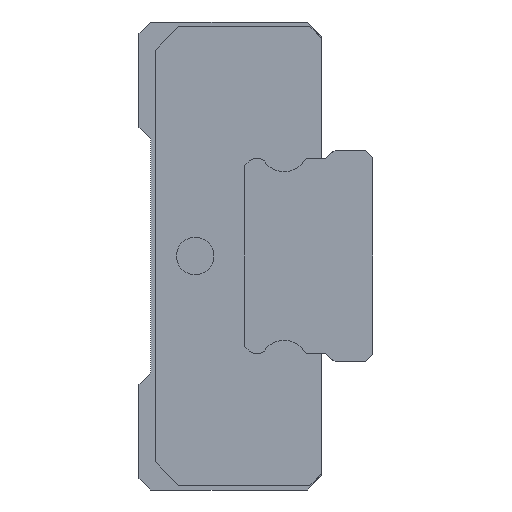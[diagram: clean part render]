
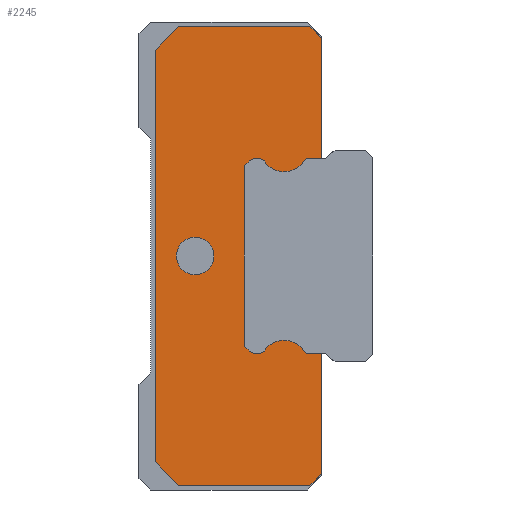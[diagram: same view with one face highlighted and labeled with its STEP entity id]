
A CAD part, left-side view. The second image highlights one B-rep face of the part: STEP entity #2245.
In plain terms, the highlighted planar face has unit normal (-1, 0, 0).
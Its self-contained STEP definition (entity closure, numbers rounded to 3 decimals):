
#81=PLANE('',#2459);
#180=LINE('',#3434,#408);
#187=LINE('',#3448,#415);
#190=LINE('',#3453,#418);
#238=LINE('',#3550,#466);
#251=LINE('',#3577,#479);
#253=LINE('',#3580,#481);
#257=LINE('',#3586,#485);
#265=LINE('',#3600,#493);
#275=LINE('',#3617,#503);
#283=LINE('',#3657,#511);
#284=LINE('',#3667,#512);
#285=LINE('',#3671,#513);
#286=LINE('',#3673,#514);
#287=LINE('',#3675,#515);
#288=LINE('',#3679,#516);
#289=LINE('',#3689,#517);
#408=VECTOR('',#2802,1000.);
#415=VECTOR('',#2813,1000.);
#418=VECTOR('',#2818,1000.);
#466=VECTOR('',#2884,1000.);
#479=VECTOR('',#2899,1000.);
#481=VECTOR('',#2903,1000.);
#485=VECTOR('',#2911,1000.);
#493=VECTOR('',#2927,1000.);
#503=VECTOR('',#2939,1000.);
#511=VECTOR('',#2975,1000.);
#512=VECTOR('',#2984,1000.);
#513=VECTOR('',#2987,1000.);
#514=VECTOR('',#2988,1000.);
#515=VECTOR('',#2989,1000.);
#516=VECTOR('',#2992,1000.);
#517=VECTOR('',#3001,1000.);
#947=ORIENTED_EDGE('',*,*,#1422,.T.);
#948=ORIENTED_EDGE('',*,*,#1423,.F.);
#949=ORIENTED_EDGE('',*,*,#1424,.T.);
#950=ORIENTED_EDGE('',*,*,#1425,.F.);
#951=ORIENTED_EDGE('',*,*,#1426,.F.);
#952=ORIENTED_EDGE('',*,*,#1427,.T.);
#953=ORIENTED_EDGE('',*,*,#1428,.T.);
#954=ORIENTED_EDGE('',*,*,#1429,.T.);
#955=ORIENTED_EDGE('',*,*,#1430,.T.);
#956=ORIENTED_EDGE('',*,*,#1431,.T.);
#957=ORIENTED_EDGE('',*,*,#1432,.T.);
#958=ORIENTED_EDGE('',*,*,#1433,.T.);
#959=ORIENTED_EDGE('',*,*,#1434,.T.);
#960=ORIENTED_EDGE('',*,*,#1435,.T.);
#961=ORIENTED_EDGE('',*,*,#1436,.F.);
#962=ORIENTED_EDGE('',*,*,#1437,.F.);
#963=ORIENTED_EDGE('',*,*,#1438,.T.);
#964=ORIENTED_EDGE('',*,*,#1439,.T.);
#965=ORIENTED_EDGE('',*,*,#1403,.F.);
#966=ORIENTED_EDGE('',*,*,#1318,.F.);
#967=ORIENTED_EDGE('',*,*,#1315,.F.);
#968=ORIENTED_EDGE('',*,*,#1308,.F.);
#969=ORIENTED_EDGE('',*,*,#1385,.F.);
#970=ORIENTED_EDGE('',*,*,#1366,.F.);
#971=ORIENTED_EDGE('',*,*,#1381,.F.);
#972=ORIENTED_EDGE('',*,*,#1379,.F.);
#973=ORIENTED_EDGE('',*,*,#1393,.F.);
#1308=EDGE_CURVE('',#1590,#1591,#180,.T.);
#1315=EDGE_CURVE('',#1591,#1594,#187,.T.);
#1318=EDGE_CURVE('',#1594,#1597,#190,.T.);
#1366=EDGE_CURVE('',#1636,#1637,#238,.T.);
#1379=EDGE_CURVE('',#1649,#1643,#251,.T.);
#1381=EDGE_CURVE('',#1643,#1636,#253,.T.);
#1385=EDGE_CURVE('',#1637,#1590,#257,.T.);
#1393=EDGE_CURVE('',#1650,#1649,#265,.T.);
#1403=EDGE_CURVE('',#1597,#1655,#275,.T.);
#1422=EDGE_CURVE('',#1675,#1675,#1785,.T.);
#1423=EDGE_CURVE('',#1676,#1650,#283,.T.);
#1424=EDGE_CURVE('',#1676,#1677,#1786,.T.);
#1425=EDGE_CURVE('',#1678,#1677,#1787,.T.);
#1426=EDGE_CURVE('',#1679,#1678,#1788,.T.);
#1427=EDGE_CURVE('',#1679,#1680,#1789,.T.);
#1428=EDGE_CURVE('',#1680,#1681,#284,.T.);
#1429=EDGE_CURVE('',#1681,#1682,#1790,.T.);
#1430=EDGE_CURVE('',#1682,#1683,#285,.T.);
#1431=EDGE_CURVE('',#1683,#1684,#286,.T.);
#1432=EDGE_CURVE('',#1684,#1685,#287,.T.);
#1433=EDGE_CURVE('',#1685,#1686,#1791,.T.);
#1434=EDGE_CURVE('',#1686,#1687,#288,.T.);
#1435=EDGE_CURVE('',#1687,#1688,#1792,.T.);
#1436=EDGE_CURVE('',#1689,#1688,#1793,.T.);
#1437=EDGE_CURVE('',#1690,#1689,#1794,.T.);
#1438=EDGE_CURVE('',#1690,#1691,#1795,.T.);
#1439=EDGE_CURVE('',#1691,#1655,#289,.T.);
#1590=VERTEX_POINT('',#3433);
#1591=VERTEX_POINT('',#3435);
#1594=VERTEX_POINT('',#3445);
#1597=VERTEX_POINT('',#3454);
#1636=VERTEX_POINT('',#3549);
#1637=VERTEX_POINT('',#3551);
#1643=VERTEX_POINT('',#3565);
#1649=VERTEX_POINT('',#3576);
#1650=VERTEX_POINT('',#3598);
#1655=VERTEX_POINT('',#3610);
#1675=VERTEX_POINT('',#3656);
#1676=VERTEX_POINT('',#3658);
#1677=VERTEX_POINT('',#3660);
#1678=VERTEX_POINT('',#3662);
#1679=VERTEX_POINT('',#3664);
#1680=VERTEX_POINT('',#3666);
#1681=VERTEX_POINT('',#3668);
#1682=VERTEX_POINT('',#3670);
#1683=VERTEX_POINT('',#3672);
#1684=VERTEX_POINT('',#3674);
#1685=VERTEX_POINT('',#3676);
#1686=VERTEX_POINT('',#3678);
#1687=VERTEX_POINT('',#3680);
#1688=VERTEX_POINT('',#3682);
#1689=VERTEX_POINT('',#3684);
#1690=VERTEX_POINT('',#3686);
#1691=VERTEX_POINT('',#3688);
#1785=CIRCLE('',#2460,0.8);
#1786=CIRCLE('',#2461,0.2);
#1787=CIRCLE('',#2462,1.);
#1788=CIRCLE('',#2463,1.1);
#1789=CIRCLE('',#2464,0.2);
#1790=CIRCLE('',#2465,0.3);
#1791=CIRCLE('',#2466,0.3);
#1792=CIRCLE('',#2467,0.2);
#1793=CIRCLE('',#2468,1.1);
#1794=CIRCLE('',#2469,1.);
#1795=CIRCLE('',#2470,0.2);
#1906=EDGE_LOOP('',(#947));
#1907=EDGE_LOOP('',(#948,#949,#950,#951,#952,#953,#954,#955,#956,#957,#958,
#959,#960,#961,#962,#963,#964,#965,#966,#967,#968,#969,#970,#971,#972,#973));
#2070=FACE_BOUND('',#1906,.T.);
#2071=FACE_BOUND('',#1907,.T.);
#2245=ADVANCED_FACE('',(#2070,#2071),#81,.F.);
#2459=AXIS2_PLACEMENT_3D('',#3654,#2971,#2972);
#2460=AXIS2_PLACEMENT_3D('',#3655,#2973,#2974);
#2461=AXIS2_PLACEMENT_3D('',#3659,#2976,#2977);
#2462=AXIS2_PLACEMENT_3D('',#3661,#2978,#2979);
#2463=AXIS2_PLACEMENT_3D('',#3663,#2980,#2981);
#2464=AXIS2_PLACEMENT_3D('',#3665,#2982,#2983);
#2465=AXIS2_PLACEMENT_3D('',#3669,#2985,#2986);
#2466=AXIS2_PLACEMENT_3D('',#3677,#2990,#2991);
#2467=AXIS2_PLACEMENT_3D('',#3681,#2993,#2994);
#2468=AXIS2_PLACEMENT_3D('',#3683,#2995,#2996);
#2469=AXIS2_PLACEMENT_3D('',#3685,#2997,#2998);
#2470=AXIS2_PLACEMENT_3D('',#3687,#2999,#3000);
#2802=DIRECTION('',(0.,-0.707,0.707));
#2813=DIRECTION('',(0.,-1.,0.));
#2818=DIRECTION('',(0.,-0.707,-0.707));
#2884=DIRECTION('',(0.,0.707,0.707));
#2899=DIRECTION('',(0.,0.707,-0.707));
#2903=DIRECTION('',(0.,1.,0.));
#2911=DIRECTION('',(0.,0.,1.));
#2927=DIRECTION('',(0.,0.,-1.));
#2939=DIRECTION('',(0.,0.,-1.));
#2971=DIRECTION('',(1.,0.,0.));
#2972=DIRECTION('',(0.,0.,-1.));
#2973=DIRECTION('',(1.,0.,0.));
#2974=DIRECTION('',(0.,0.,-1.));
#2975=DIRECTION('',(0.,-1.,0.));
#2976=DIRECTION('',(1.,0.,0.));
#2977=DIRECTION('',(0.,0.,-1.));
#2978=DIRECTION('',(1.,0.,0.));
#2979=DIRECTION('',(0.,0.,-1.));
#2980=DIRECTION('',(1.,0.,0.));
#2981=DIRECTION('',(0.,0.,-1.));
#2982=DIRECTION('',(1.,0.,0.));
#2983=DIRECTION('',(0.,0.,-1.));
#2984=DIRECTION('',(0.,1.,0.));
#2985=DIRECTION('',(1.,0.,0.));
#2986=DIRECTION('',(0.,0.,-1.));
#2987=DIRECTION('',(0.,0.707,0.707));
#2988=DIRECTION('',(0.,0.,1.));
#2989=DIRECTION('',(0.,-0.707,0.707));
#2990=DIRECTION('',(1.,0.,0.));
#2991=DIRECTION('',(0.,0.,-1.));
#2992=DIRECTION('',(0.,-1.,0.));
#2993=DIRECTION('',(1.,0.,0.));
#2994=DIRECTION('',(0.,0.,-1.));
#2995=DIRECTION('',(1.,0.,0.));
#2996=DIRECTION('',(0.,0.,-1.));
#2997=DIRECTION('',(1.,0.,0.));
#2998=DIRECTION('',(0.,0.,-1.));
#2999=DIRECTION('',(1.,0.,0.));
#3000=DIRECTION('',(0.,0.,-1.));
#3001=DIRECTION('',(0.,-1.,0.));
#3433=CARTESIAN_POINT('',(-10.75,7.1,8.8));
#3434=CARTESIAN_POINT('',(-10.75,7.1,8.8));
#3435=CARTESIAN_POINT('',(-10.75,6.1,9.8));
#3445=CARTESIAN_POINT('',(-10.75,0.5,9.8));
#3448=CARTESIAN_POINT('',(-10.75,6.1,9.8));
#3453=CARTESIAN_POINT('',(-10.75,0.5,9.8));
#3454=CARTESIAN_POINT('',(-10.75,0.,9.3));
#3549=CARTESIAN_POINT('',(-10.75,6.1,-9.8));
#3550=CARTESIAN_POINT('',(-10.75,6.1,-9.8));
#3551=CARTESIAN_POINT('',(-10.75,7.1,-8.8));
#3565=CARTESIAN_POINT('',(-10.75,0.5,-9.8));
#3576=CARTESIAN_POINT('',(-10.75,0.,-9.3));
#3577=CARTESIAN_POINT('',(-10.75,0.,-9.3));
#3580=CARTESIAN_POINT('',(-10.75,0.5,-9.8));
#3586=CARTESIAN_POINT('',(-10.75,7.1,-8.8));
#3598=CARTESIAN_POINT('',(-10.75,0.,-4.15));
#3600=CARTESIAN_POINT('',(-10.75,0.,9.3));
#3610=CARTESIAN_POINT('',(-10.75,0.,4.15));
#3617=CARTESIAN_POINT('',(-10.75,0.,9.3));
#3654=CARTESIAN_POINT('',(-10.75,0.,0.));
#3655=CARTESIAN_POINT('',(-10.75,5.4,0.));
#3656=CARTESIAN_POINT('',(-10.75,5.4,-0.8));
#3657=CARTESIAN_POINT('',(-10.75,0.,-4.15));
#3658=CARTESIAN_POINT('',(-10.75,0.591,-4.15));
#3659=CARTESIAN_POINT('',(-10.75,0.591,-3.95));
#3660=CARTESIAN_POINT('',(-10.75,0.759,-4.058));
#3661=CARTESIAN_POINT('',(-10.75,1.6,-4.6));
#3662=CARTESIAN_POINT('',(-10.75,2.2,-3.8));
#3663=CARTESIAN_POINT('',(-10.75,1.54,-4.68));
#3664=CARTESIAN_POINT('',(-10.75,2.45,-4.062));
#3665=CARTESIAN_POINT('',(-10.75,2.616,-3.95));
#3666=CARTESIAN_POINT('',(-10.75,2.616,-4.15));
#3667=CARTESIAN_POINT('',(-10.75,2.616,-4.15));
#3668=CARTESIAN_POINT('',(-10.75,2.876,-4.15));
#3669=CARTESIAN_POINT('',(-10.75,2.876,-3.85));
#3670=CARTESIAN_POINT('',(-10.75,3.088,-4.062));
#3671=CARTESIAN_POINT('',(-10.75,3.088,-4.062));
#3672=CARTESIAN_POINT('',(-10.75,3.3,-3.85));
#3673=CARTESIAN_POINT('',(-10.75,3.3,-3.85));
#3674=CARTESIAN_POINT('',(-10.75,3.3,3.85));
#3675=CARTESIAN_POINT('',(-10.75,3.3,3.85));
#3676=CARTESIAN_POINT('',(-10.75,3.088,4.062));
#3677=CARTESIAN_POINT('',(-10.75,2.876,3.85));
#3678=CARTESIAN_POINT('',(-10.75,2.876,4.15));
#3679=CARTESIAN_POINT('',(-10.75,2.876,4.15));
#3680=CARTESIAN_POINT('',(-10.75,2.616,4.15));
#3681=CARTESIAN_POINT('',(-10.75,2.616,3.95));
#3682=CARTESIAN_POINT('',(-10.75,2.45,4.062));
#3683=CARTESIAN_POINT('',(-10.75,1.54,4.68));
#3684=CARTESIAN_POINT('',(-10.75,2.2,3.8));
#3685=CARTESIAN_POINT('',(-10.75,1.6,4.6));
#3686=CARTESIAN_POINT('',(-10.75,0.759,4.058));
#3687=CARTESIAN_POINT('',(-10.75,0.591,3.95));
#3688=CARTESIAN_POINT('',(-10.75,0.591,4.15));
#3689=CARTESIAN_POINT('',(-10.75,0.591,4.15));
